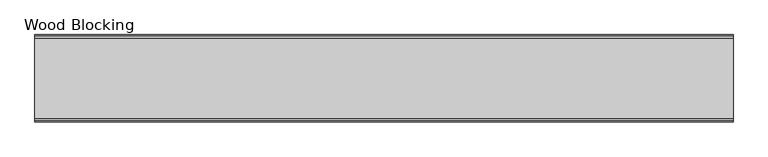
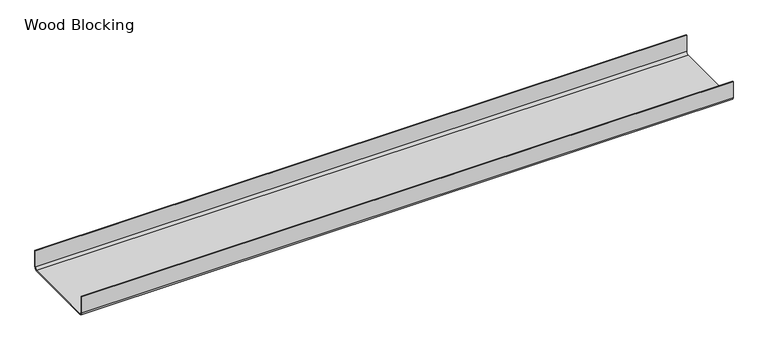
"""IFC4 building model written with IfcOpenShell, lengths in millimetres: proxy geometry, CRAi Generic Model Line Based Metal Framing Track : Wood Blocking."""

from ifc_helpers import new_model, si_unit, point, frame, frame_2d, origin, place, context, project, spatial, polyline, circle_curve, trimmed, segment, composite_curve, outline, extrude, source, transform, mapped, element, save


def wood_blocking_3523bb6f(model_context):
    return source(origin(), model_context, "Body", "SweptSolid", [
        extrude(outline(composite_curve([segment(polyline([(146.05, 0.0), (6.35, 0.0)]), True, "CONTINUOUS"), segment(trimmed(circle_curve(frame_2d((6.35, 6.35)), 6.35), [point((6.35, 0.0))], [point((0.0, 6.35))], False, "CARTESIAN"), True, "CONTINUOUS"), segment(polyline([(0.0, 6.35), (0.0, 38.1), (1.5875, 38.1), (1.5875, 6.35)]), True, "CONTINUOUS"), segment(trimmed(circle_curve(frame_2d((6.35, 6.35)), 4.7625), [point((1.5875, 6.35))], [point((6.35, 1.5875))], True, "CARTESIAN"), True, "CONTINUOUS"), segment(polyline([(6.35, 1.5875), (146.0504713, 1.5875)]), True, "CONTINUOUS"), segment(trimmed(circle_curve(frame_2d((146.05, 6.35)), 4.7625), [point((146.0504713, 1.5875))], [point((150.8125, 6.3495615))], True, "CARTESIAN"), True, "CONTINUOUS"), segment(polyline([(150.8125, 6.3495615), (150.8125, 38.1), (152.4, 38.1), (152.4, 6.35)]), True, "CONTINUOUS"), segment(trimmed(circle_curve(frame_2d((146.05, 6.35)), 6.35), [point((152.4, 6.35))], [point((146.05, 0.0))], False, "CARTESIAN"), True, "CONTINUOUS")], self_intersect=False)), frame((0.0, 0.0, 0.0), z_axis=(1.0, 0.0, 0.0), x_axis=(0.0, 1.0, 0.0)), (0.0, 0.0, 1.0), 1219.2),
    ])


if __name__ == "__main__":
    model = new_model("IFC4")
    model_context = context("Model", 3, world=origin())
    ifc_project = project(units=[si_unit("LENGTHUNIT", "METRE", prefix="MILLI")], contexts=[model_context])
    site = spatial("IfcSite", under=ifc_project)
    building = spatial("IfcBuilding", under=site)
    placement = place(None, origin())
    wood_blocking_shape = wood_blocking_3523bb6f(model_context)
    element("IfcBuildingElementProxy", 1, Name="CRAi Generic Model Line Based Metal Framing Track : Wood Blocking", ObjectType="CRAi Generic Model Line Based Metal Framing Track : Wood Blocking", at=placement, inside=building, context=model_context, shape_type="MappedRepresentation", body=[
        mapped(wood_blocking_shape, transform((0.0, 0.0, 0.0), x_axis=(1.0, 0.0, 0.0), y_axis=(0.0, 1.0, 0.0), z_axis=(0.0, 0.0, 1.0))),
    ])
    save(model, "model.ifc")
